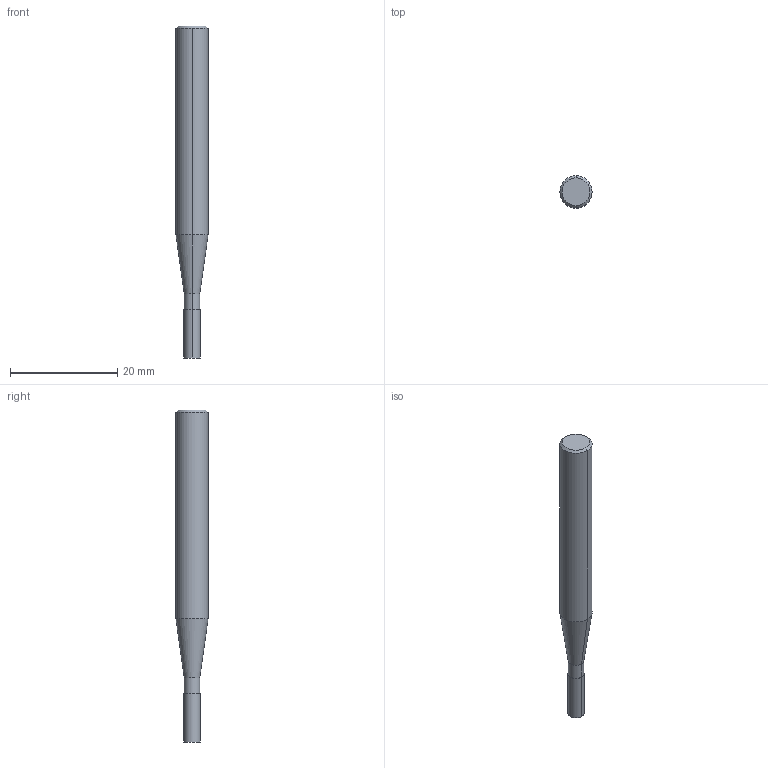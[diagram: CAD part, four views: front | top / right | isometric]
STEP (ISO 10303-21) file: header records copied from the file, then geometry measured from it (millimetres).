
FILE_DESCRIPTION((''),'2;1');
FILE_NAME('DIN4003_82_HEURO','2016-06-28T',('automc'),(''),'PRO/ENGINEER BY PARAMETRIC TECHNOLOGY CORPORATION, 2015280','PRO/ENGINEER BY PARAMETRIC TECHNOLOGY CORPORATION, 2015280','');
FILE_SCHEMA(('AUTOMOTIVE_DESIGN { 1 0 10303 214 1 1 1 1 }'));
Length unit declared in the file: millimetre
Products named in the file (1): DIN4003_82_HEURO
Bounding box: 6 x 6 x 62 mm (x, y, z)
Volume: 1362.7 mm3; surface area: 1033.8 mm2
Topology: 1 solids, 1 shells, 13 faces, 26 edges, 17 vertices
Faces by surface type: bspline 13
Entity records: 750 total; most frequent: CARTESIAN_POINT 251, DIRECTION 69, ORIENTED_EDGE 48, AXIS2_PLACEMENT_3D 26, EDGE_CURVE 24, PRESENTATION_STYLE_ASSIGNMENT 23, STYLED_ITEM 23, VECTOR 17
